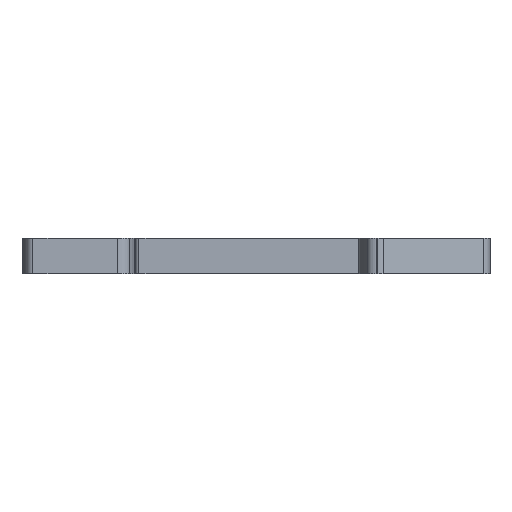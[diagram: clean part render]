
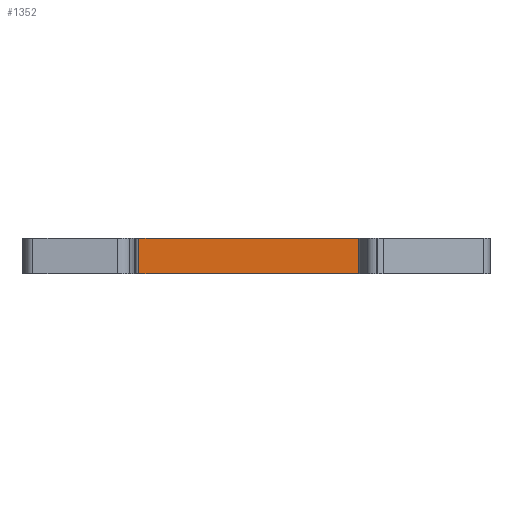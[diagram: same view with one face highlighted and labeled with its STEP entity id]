
A CAD part, front view. The second image highlights one B-rep face of the part: STEP entity #1352.
In plain terms, the highlighted planar face has unit normal (0, -1, 0).
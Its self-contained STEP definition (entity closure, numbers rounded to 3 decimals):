
#577=FACE_OUTER_BOUND('',#2668,.T.);
#1352=ADVANCED_FACE('',(#577),#2121,.T.);
#2121=PLANE('',#15497);
#2668=EDGE_LOOP('',(#4513,#4514,#4515,#4516));
#4513=ORIENTED_EDGE('',*,*,#10310,.T.);
#4514=ORIENTED_EDGE('',*,*,#10273,.F.);
#4515=ORIENTED_EDGE('',*,*,#10311,.F.);
#4516=ORIENTED_EDGE('',*,*,#9987,.T.);
#8533=VERTEX_POINT('',#21055);
#8534=VERTEX_POINT('',#21057);
#8798=VERTEX_POINT('',#21628);
#8799=VERTEX_POINT('',#21630);
#9987=EDGE_CURVE('',#8534,#8533,#12124,.T.);
#10273=EDGE_CURVE('',#8798,#8799,#12262,.T.);
#10310=EDGE_CURVE('',#8533,#8799,#12289,.T.);
#10311=EDGE_CURVE('',#8534,#8798,#12290,.T.);
#12124=LINE('',#21056,#13704);
#12262=LINE('',#21629,#13842);
#12289=LINE('',#21702,#13869);
#12290=LINE('',#21704,#13870);
#13704=VECTOR('',#16780,1.);
#13842=VECTOR('',#17258,1.);
#13869=VECTOR('',#17341,1.);
#13870=VECTOR('',#17344,1.);
#15497=AXIS2_PLACEMENT_3D('',#21705,#17345,#17346);
#16780=DIRECTION('',(1.,0.,0.));
#17258=DIRECTION('',(1.,0.,0.));
#17341=DIRECTION('',(0.,0.,1.));
#17344=DIRECTION('',(0.,0.,1.));
#17345=DIRECTION('',(0.,-1.,0.));
#17346=DIRECTION('',(1.,0.,0.));
#21055=CARTESIAN_POINT('',(138.228,6.173,-5.2));
#21056=CARTESIAN_POINT('',(105.097,6.173,-5.2));
#21057=CARTESIAN_POINT('',(105.097,6.173,-5.2));
#21628=CARTESIAN_POINT('',(105.097,6.173,0.));
#21629=CARTESIAN_POINT('',(105.097,6.173,0.));
#21630=CARTESIAN_POINT('',(138.228,6.173,0.));
#21702=CARTESIAN_POINT('',(138.228,6.173,-5.2));
#21704=CARTESIAN_POINT('',(105.097,6.173,-5.2));
#21705=CARTESIAN_POINT('',(105.097,6.173,-5.2));
